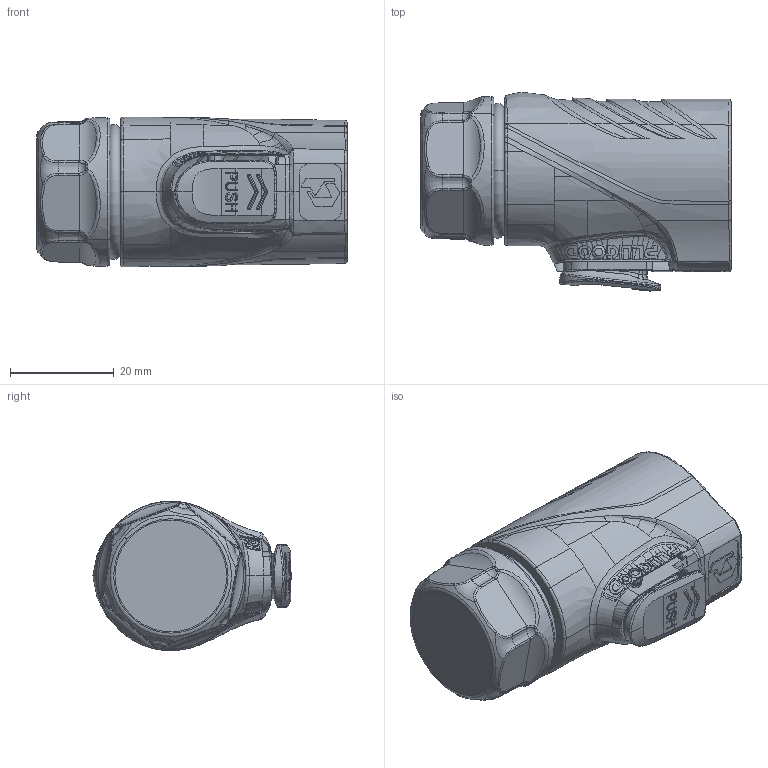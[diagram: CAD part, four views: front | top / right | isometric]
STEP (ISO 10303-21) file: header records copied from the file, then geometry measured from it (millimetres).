
FILE_DESCRIPTION (( 'STEP AP203' ), '1' );
FILE_NAME ('PLG20 2郋眻芛脣芛淏蚾.STEP', '2025-11-19T03:43:13', ( '' ), ( '' ), 'SwSTEP 2.0', 'SolidWorks 2024', '' );
FILE_SCHEMA (( 'CONFIG_CONTROL_DESIGN' ));
Products named in the file (1): PLG20 2芯直头插头正装
Bounding box: 59.73 x 38.21 x 28.77 mm (x, y, z)
Volume: 35034 mm3; surface area: 13172.1 mm2
Topology: 2 solids, 5 shells, 1153 faces, 3073 edges, 1940 vertices
Faces by surface type: bspline 665, plane 223, cylinder 144, cone 61, torus 58, sphere 2
Entity records: 84088 total; most frequent: CARTESIAN_POINT 61035, ORIENTED_EDGE 6134, EDGE_CURVE 3067, DIRECTION 2729, VERTEX_POINT 1939, B_SPLINE_CURVE_WITH_KNOTS 1726, EDGE_LOOP 1186, FACE_OUTER_BOUND 1152
